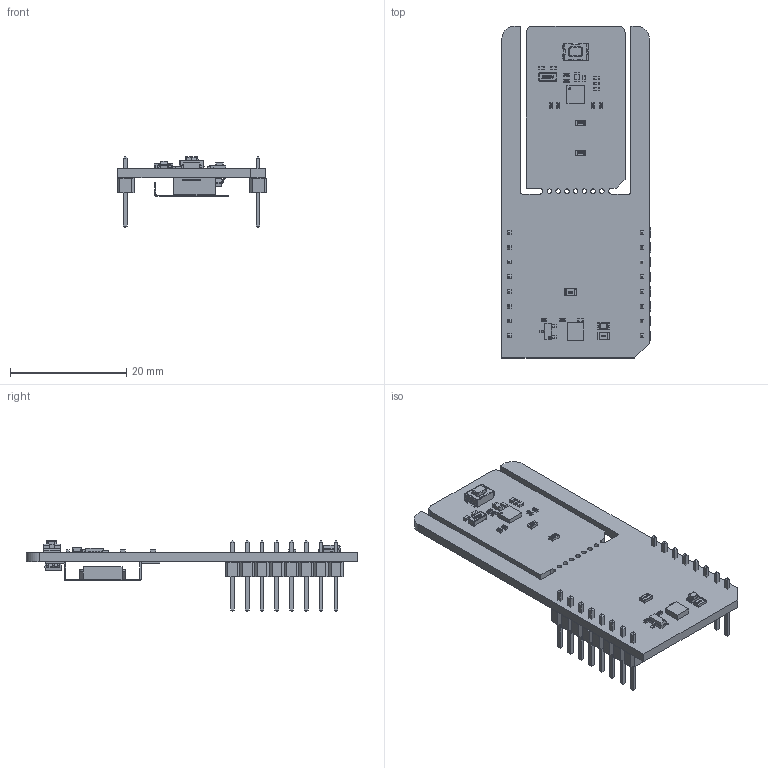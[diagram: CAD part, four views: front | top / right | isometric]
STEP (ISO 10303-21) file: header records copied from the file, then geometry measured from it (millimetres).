
FILE_DESCRIPTION(('Open CASCADE Model'),'2;1');
FILE_NAME('Open CASCADE Shape Model','2026-02-05T12:03:45',('Author'),( 'Open CASCADE'),'Open CASCADE STEP processor 7.5','Open CASCADE 7.5' ,'Unknown');
FILE_SCHEMA(('AUTOMOTIVE_DESIGN { 1 0 10303 214 1 1 1 1 }'));
Length unit declared in the file: millimetre
Products named in the file (63): PCB; Board; Open CASCADE STEP translator 7.5 1.1.1; C2; User Library-SMD CAPACITOR0402; R3; User Library-R_0402; Y1; ABS07; User Library-ABS07_ABS07 Body_2; User Library-ABS07_ABS07 Body2_2; User Library-ABS07_ABS07 Beschriftung_2; User Library-ABS07_ABS07 Pads_2; U3; User Library-SOT23-5-2; U2; DFN-10; User Library-DFN-10_Fusion; User Library-DFN-10_Fillet; User Library-DFN-10_DFN_10011; T1; User Library-Switch-CK-KMR2; User Library-Switch-CK-KMR2_Button; User Library-Switch-CK-KMR2_Boitier; User Library-Switch-CK-KMR2_Tole; User Library-Switch-CK-KMR2_Pads; R9; R8; R7; R6; R5; JP1; User Library-R_0805; JP3; User Library-R_0603; C8; C7; C6; C5; User Library-SMD CAPACITOR0603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
Assembly tree (79 placements, depth 7):
  PCB
    Board
      Open CASCADE STEP translator 7.5 1.1.1
    C2
      User Library-SMD CAPACITOR0402
    R3
      User Library-R_0402
    Y1
      ABS07
        User Library-ABS07_ABS07 Body_2
        User Library-ABS07_ABS07 Body2_2
        User Library-ABS07_ABS07 Beschriftung_2
        User Library-ABS07_ABS07 Pads_2
    U3
      User Library-SOT23-5-2
    U2
      DFN-10
        User Library-DFN-10_Fusion
        User Library-DFN-10_Fillet
        User Library-DFN-10_DFN_10011
    T1
      User Library-Switch-CK-KMR2
        User Library-Switch-CK-KMR2_Button
        User Library-Switch-CK-KMR2_Boitier
        User Library-Switch-CK-KMR2_Tole
        User Library-Switch-CK-KMR2_Pads
    R9
      User Library-R_0402
    R8
      User Library-R_0402
    R7
      User Library-R_0402
    R6
      User Library-R_0402
    R5
      User Library-R_0402
    JP1
      User Library-R_0805
    JP3
      User Library-R_0603
    C8
      User Library-SMD CAPACITOR0402
    C7
      User Library-SMD CAPACITOR0402
    C6
      User Library-SMD CAPACITOR0402
    C5
      User Library-SMD CAPACITOR0603
    C4
      User Library-SMD CAPACITOR0402
    C3
      User Library-SMD CAPACITOR0402
    BAT1
      Battery Holder CR1220
    U1
      8331731616
        Extruded
    Q1
      SOT23-3
    R4
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Bounding box: 25.78 x 57.15 x 12.21 mm (x, y, z)
Volume: 2715.4 mm3; surface area: 5318.7 mm2
Topology: 92 solids, 93 shells, 2891 faces, 7370 edges, 4705 vertices
Faces by surface type: plane 1933, bspline 578, cylinder 297, sphere 72, cone 6, torus 5
Full cylindrical faces by diameter (mm): 0.8 x7
Entity records: 62499 total; most frequent: CARTESIAN_POINT 17186, ORIENTED_EDGE 7672, DIRECTION 6244, EDGE_CURVE 3857, LINE 2790, VECTOR 2790, VERTEX_POINT 2499, AXIS2_PLACEMENT_3D 1727
